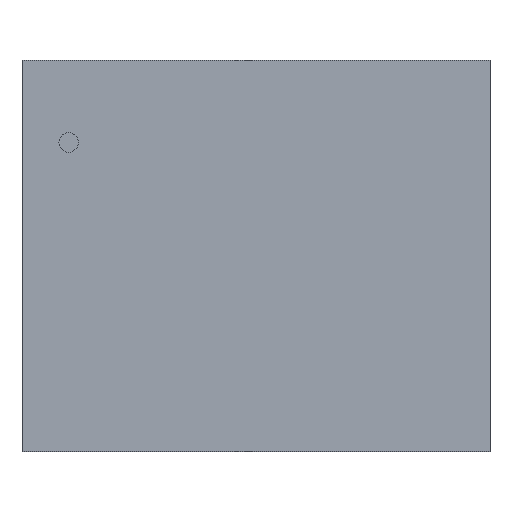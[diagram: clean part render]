
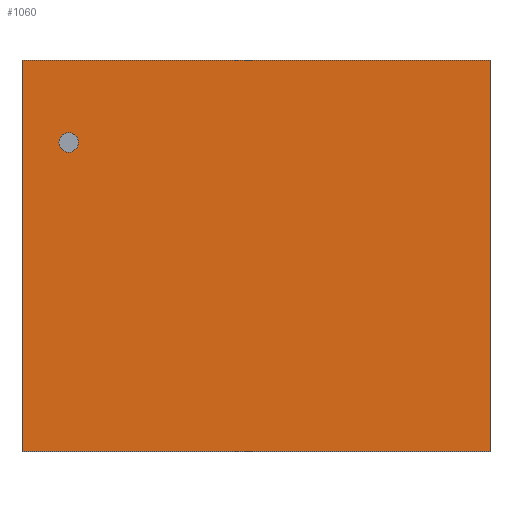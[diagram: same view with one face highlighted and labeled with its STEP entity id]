
A CAD part, top view. The second image highlights one B-rep face of the part: STEP entity #1060.
In plain terms, the highlighted planar face has unit normal (0, 0, 1).
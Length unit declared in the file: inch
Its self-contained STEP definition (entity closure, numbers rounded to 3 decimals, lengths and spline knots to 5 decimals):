
#110 = VERTEX_POINT ( 'NONE', #249 ) ;
#241 = AXIS2_PLACEMENT_3D ( 'NONE', #2075, #1077, #1125 ) ;
#249 = CARTESIAN_POINT ( 'NONE',  ( 0.06098, 0.05098, 0.065 ) ) ;
#454 = VECTOR ( 'NONE', #2303, 39.37008 ) ;
#478 = CARTESIAN_POINT ( 'NONE',  ( -0.06098, 0.05098, 0.065 ) ) ;
#528 = VERTEX_POINT ( 'NONE', #634 ) ;
#549 = CARTESIAN_POINT ( 'NONE',  ( 0.06098, 0.05098, 0.065 ) ) ;
#565 = VECTOR ( 'NONE', #786, 39.37008 ) ;
#580 = LINE ( 'NONE', #549, #565 ) ;
#624 = LINE ( 'NONE', #1248, #2548 ) ;
#634 = CARTESIAN_POINT ( 'NONE',  ( -0.06098, 0.05098, 0.065 ) ) ;
#696 = FACE_OUTER_BOUND ( 'NONE', #2189, .T. ) ;
#769 = CARTESIAN_POINT ( 'NONE',  ( 0.06098, -0.05098, 0.065 ) ) ;
#786 = DIRECTION ( 'NONE',  ( -1., 0., 0. ) ) ;
#888 = LINE ( 'NONE', #478, #1015 ) ;
#1015 = VECTOR ( 'NONE', #2520, 39.37008 ) ;
#1060 = ADVANCED_FACE ( 'NONE', ( #696 ), #1472, .T. ) ;
#1077 = DIRECTION ( 'NONE',  ( 0., 0., 1. ) ) ;
#1089 = EDGE_CURVE ( 'NONE', #1712, #110, #1094, .T. ) ;
#1094 = LINE ( 'NONE', #1668, #454 ) ;
#1105 = EDGE_CURVE ( 'NONE', #528, #2255, #888, .T. ) ;
#1125 = DIRECTION ( 'NONE',  ( 1., 0., 0. ) ) ;
#1248 = CARTESIAN_POINT ( 'NONE',  ( -0.06098, -0.05098, 0.065 ) ) ;
#1415 = EDGE_CURVE ( 'NONE', #110, #528, #580, .T. ) ;
#1472 = PLANE ( 'NONE',  #241 ) ;
#1517 = ORIENTED_EDGE ( 'NONE', *, *, #2381, .T. ) ;
#1668 = CARTESIAN_POINT ( 'NONE',  ( 0.06098, -0.05098, 0.065 ) ) ;
#1712 = VERTEX_POINT ( 'NONE', #769 ) ;
#1752 = ORIENTED_EDGE ( 'NONE', *, *, #1089, .T. ) ;
#1846 = ORIENTED_EDGE ( 'NONE', *, *, #1105, .T. ) ;
#1859 = CARTESIAN_POINT ( 'NONE',  ( -0.06098, -0.05098, 0.065 ) ) ;
#1954 = ORIENTED_EDGE ( 'NONE', *, *, #1415, .T. ) ;
#2075 = CARTESIAN_POINT ( 'NONE',  ( -0.06098, -0.05098, 0.065 ) ) ;
#2189 = EDGE_LOOP ( 'NONE', ( #1517, #1752, #1954, #1846 ) ) ;
#2255 = VERTEX_POINT ( 'NONE', #1859 ) ;
#2303 = DIRECTION ( 'NONE',  ( 0., 1., 0. ) ) ;
#2381 = EDGE_CURVE ( 'NONE', #2255, #1712, #624, .T. ) ;
#2450 = DIRECTION ( 'NONE',  ( 1., 0., 0. ) ) ;
#2520 = DIRECTION ( 'NONE',  ( 0., -1., 0. ) ) ;
#2548 = VECTOR ( 'NONE', #2450, 39.37008 ) ;
